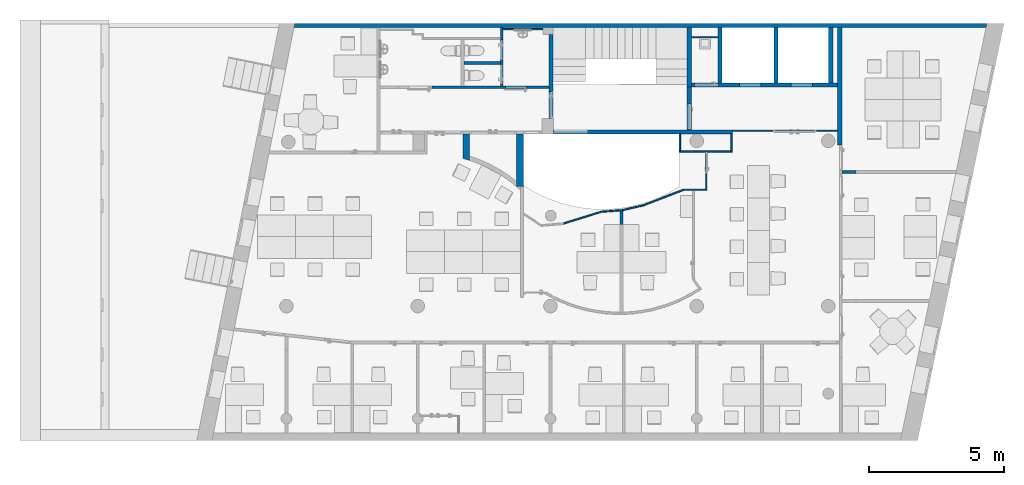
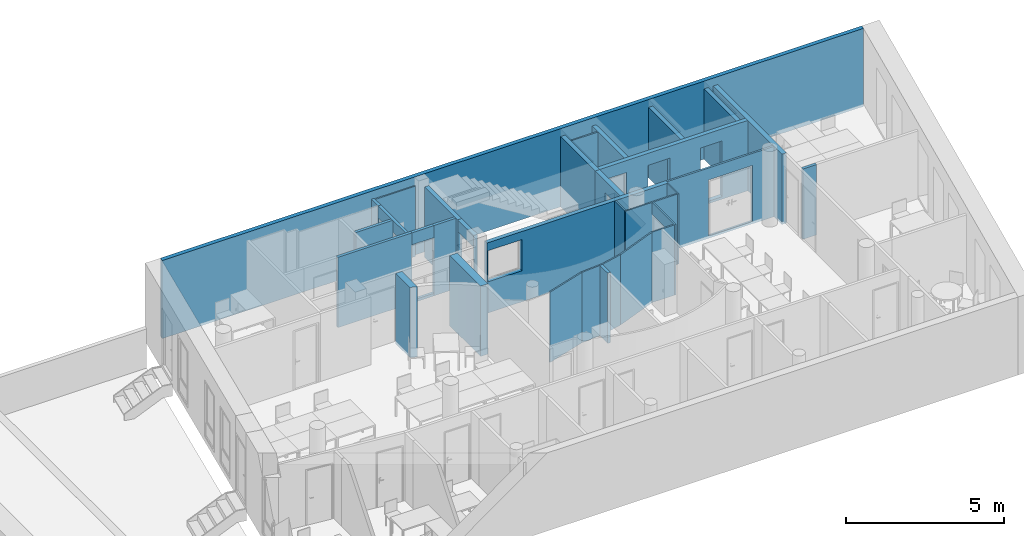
"""IFC4 building model written with IfcOpenShell, lengths in metres."""

import ifcopenshell
import ifcopenshell.guid

model = None  # the IFC model being written
_history = None  # IfcOwnerHistory: only IFC2X3 demands one
_inside = {}  # id of a spatial element -> (the spatial element, [elements in it])
_under = {}  # id of a project, library or spatial element -> (it, [spatial elements below it])
_declared = {}  # id of a project -> (the project, [libraries it declares])
_typed = {}  # id of a type object -> (the type object, [elements of that type])
_made_of = {}  # id of a material, layer set ... -> (it, [elements and type objects made of it])


def new_model(schema):
    """Start an empty IFC model of exactly this schema.

    Asked for "IFC4X3", IfcOpenShell would pick the latest addendum, in which some entities
    have other attributes; the version numbers below select the first issue.
    IFC2X3 requires an IfcOwnerHistory on every rooted entity: one is made here for all.
    """
    global model, _history
    if schema == "IFC4X3":
        model = ifcopenshell.file(schema_version=(4, 3, 0, 0))
    else:
        model = ifcopenshell.file(schema=schema)
    _inside.clear()
    _under.clear()
    _declared.clear()
    _typed.clear()
    _made_of.clear()
    _history = None
    if model.schema == "IFC2X3":
        org = make("IfcOrganization", Name="unknown")
        user = make(
            "IfcPersonAndOrganization",
            ThePerson=make("IfcPerson", FamilyName="unknown"),
            TheOrganization=org,
        )
        app = make(
            "IfcApplication",
            ApplicationDeveloper=org,
            Version="unknown",
            ApplicationFullName="unknown",
            ApplicationIdentifier="unknown",
        )
        _history = make(
            "IfcOwnerHistory",
            OwningUser=user,
            OwningApplication=app,
            ChangeAction="ADDED",
            CreationDate=0,
        )
    return model


def make(cls, **values):
    """One entity of the class cls with the attributes given. An attribute that is None is left unset."""
    return model.create_entity(
        cls, **{name: value for name, value in values.items() if value is not None}
    )


def entity(cls, *values):
    """Any entity or typed value of the class cls, its attributes in the order of the schema. None: left unset."""
    e = model.create_entity(cls)
    for i, value in enumerate(values):
        if value is not None:
            e[i] = value
    return e


def rooted(cls, **values):
    """An entity with a GlobalId (a new one), such as an element, a storey or a relation."""
    return make(cls, GlobalId=ifcopenshell.guid.new(), OwnerHistory=_history, **values)


def si_unit(unit_type, name, prefix=None):
    """IfcSIUnit, for example si_unit("LENGTHUNIT", "METRE", prefix="MILLI")."""
    return make("IfcSIUnit", UnitType=unit_type, Prefix=prefix, Name=name)


def converted_unit(unit_type, name, factor, base, dimensions=None, offset=None):
    """IfcConversionBasedUnit, such as the inch: factor (a typed value) times the base unit."""
    return make(
        "IfcConversionBasedUnit"
        if offset is None
        else "IfcConversionBasedUnitWithOffset",
        ConversionOffset=offset,
        Dimensions=None
        if dimensions is None
        else entity("IfcDimensionalExponents", *dimensions),
        UnitType=unit_type,
        Name=name,
        ConversionFactor=make(
            "IfcMeasureWithUnit", ValueComponent=factor, UnitComponent=base
        ),
    )


def derived_unit(unit_type, elements):
    """IfcDerivedUnit: a product of units, each with its exponent."""
    return make(
        "IfcDerivedUnit",
        Elements=[
            make("IfcDerivedUnitElement", Unit=unit, Exponent=power)
            for unit, power in elements
        ],
        UnitType=unit_type,
    )


def assignment(units):
    """IfcUnitAssignment: the units of a project."""
    return None if units is None else make("IfcUnitAssignment", Units=units)


def point(xyz):
    """IfcCartesianPoint."""
    return None if xyz is None else make("IfcCartesianPoint", Coordinates=xyz)


def direction(xyz):
    """IfcDirection."""
    return None if xyz is None else make("IfcDirection", DirectionRatios=xyz)


def frame(location, z_axis=None, x_axis=None):
    """IfcAxis2Placement3D, a coordinate frame: its origin and axes. An axis left out is left unset."""
    return make(
        "IfcAxis2Placement3D",
        Location=point(location),
        Axis=direction(z_axis),
        RefDirection=direction(x_axis),
    )


def frame_2d(location, x_axis=None):
    """IfcAxis2Placement2D, a coordinate frame in the plane: its origin and x axis."""
    return make(
        "IfcAxis2Placement2D", Location=point(location), RefDirection=direction(x_axis)
    )


def origin():
    """The frame at (0, 0, 0) with its axes left unset."""
    return frame((0.0, 0.0, 0.0))


def origin_with_axes():
    """The frame at (0, 0, 0) with the z axis (0, 0, 1) and the x axis (1, 0, 0) written out."""
    return frame((0.0, 0.0, 0.0), z_axis=(0.0, 0.0, 1.0), x_axis=(1.0, 0.0, 0.0))


def place(relative_to, where):
    """IfcLocalPlacement: puts the frame where relative to a parent placement (None: the world)."""
    return make(
        "IfcLocalPlacement", PlacementRelTo=relative_to, RelativePlacement=where
    )


def context(
    kind, dimensions, precision=None, world=None, true_north=None, identifier=None
):
    """IfcGeometricRepresentationContext, for example the 3D "Model" context."""
    return make(
        "IfcGeometricRepresentationContext",
        ContextIdentifier=identifier,
        ContextType=kind,
        CoordinateSpaceDimension=dimensions,
        Precision=precision,
        WorldCoordinateSystem=world,
        TrueNorth=true_north,
    )


def subcontext(parent, identifier, kind, view, scale=None):
    """IfcGeometricRepresentationSubContext, for example "Body" below "Model"."""
    return make(
        "IfcGeometricRepresentationSubContext",
        ContextIdentifier=identifier,
        ContextType=kind,
        ParentContext=parent,
        TargetScale=scale,
        TargetView=view,
    )


def project(units=None, contexts=None):
    """IfcProject with its units and contexts."""
    return rooted(
        "IfcProject",
        Name="project",
        RepresentationContexts=contexts,
        UnitsInContext=assignment(units),
    )


def spatial(cls, under=None, at=None, **own):
    """A site, building, storey or space (cls), placed at a placement, below another one or the project."""
    s = rooted(cls, ObjectPlacement=at, **own)
    if under is not None:
        _under.setdefault(under.id(), (under, []))[1].append(s)
    return s


def polyline(points):
    """IfcPolyline through the points."""
    return make("IfcPolyline", Points=[point(p) for p in points])


def profile(cls, at=None, kind="AREA", **sizes):
    """A parametric profile (cls). Its sizes go by their IFC names, for example OverallWidth=200.0."""
    return make(cls, ProfileType=kind, Position=at, **sizes)


def rectangle(**sizes):
    """IfcRectangleProfileDef."""
    return profile("IfcRectangleProfileDef", **sizes)


def outline(outer, holes=None, kind="AREA"):
    """IfcArbitraryClosedProfileDef: a profile drawn as a closed curve; with holes, ...WithVoids."""
    if holes is None:
        return make("IfcArbitraryClosedProfileDef", ProfileType=kind, OuterCurve=outer)
    return make(
        "IfcArbitraryProfileDefWithVoids",
        ProfileType=kind,
        OuterCurve=outer,
        InnerCurves=holes,
    )


def extrude(swept, where, along, depth):
    """IfcExtrudedAreaSolid: the profile swept, set in the frame where, extruded along a direction by depth."""
    return make(
        "IfcExtrudedAreaSolid",
        SweptArea=swept,
        Position=where,
        ExtrudedDirection=direction(along),
        Depth=depth,
    )


def shape(context_of_items, identifier, shape_type, items):
    """IfcShapeRepresentation: the items that make up one representation, for example the "Body"."""
    return make(
        "IfcShapeRepresentation",
        ContextOfItems=context_of_items,
        RepresentationIdentifier=identifier,
        RepresentationType=shape_type,
        Items=items,
    )


def material(Name=None, Category=None):
    """IfcMaterial."""
    return make("IfcMaterial", Name=Name, Category=Category)


def layer(
    of_material, thickness, ventilated=None, Name=None, Category=None, Priority=None
):
    """IfcMaterialLayer: one layer of a wall or slab, of a material (None: an air gap)."""
    return make(
        "IfcMaterialLayer",
        Material=of_material,
        LayerThickness=thickness,
        IsVentilated=ventilated,
        Name=Name,
        Category=Category,
        Priority=Priority,
    )


def layer_set(layers, Name=None):
    """IfcMaterialLayerSet."""
    return make("IfcMaterialLayerSet", MaterialLayers=layers, LayerSetName=Name)


def layer_usage(for_layer_set, set_direction, sense, offset, extent=None):
    """IfcMaterialLayerSetUsage: how a layer set lies in its element."""
    return make(
        "IfcMaterialLayerSetUsage",
        ForLayerSet=for_layer_set,
        LayerSetDirection=set_direction,
        DirectionSense=sense,
        OffsetFromReferenceLine=offset,
        ReferenceExtent=extent,
    )


def made_of(thing, what):
    """Note that an element or type object is made of a material, layer set ...; save() writes the relation."""
    if what is not None:
        _made_of.setdefault(what.id(), (what, []))[1].append(thing)
    return thing


def element(
    cls,
    number,
    at=None,
    inside=None,
    cuts=None,
    type_object=None,
    material=None,
    context=None,
    identifier="Body",
    shape_type=None,
    held_by="IfcProductDefinitionShape",
    body=None,
    shapes=None,
    **own,
):
    """One element of the class cls, such as IfcWall. Its Tag is "e" and its number.

    at: its placement. inside: the storey or other place that contains it. cuts: it is an
    opening in that element (IfcRelVoidsElement). A single representation is given by context,
    identifier, shape_type and body (its items); several are given by shapes. held_by: the class
    of the entity that holds the representations. save() writes the other relations.
    """
    e = rooted(cls, Tag="e%d" % number, ObjectPlacement=at, **own)
    if body is not None:
        shapes = [shape(context, identifier, shape_type, body)]
    if shapes is not None:
        e.Representation = make(held_by, Representations=shapes)
    if inside is not None:
        _inside.setdefault(inside.id(), (inside, []))[1].append(e)
    if cuts is not None:
        rooted(
            "IfcRelVoidsElement", RelatingBuildingElement=cuts, RelatedOpeningElement=e
        )
    if type_object is not None:
        _typed.setdefault(type_object.id(), (type_object, []))[1].append(e)
    return made_of(e, material)


def aggregate(whole, parts):
    """IfcRelAggregates: a whole, such as a stair, and the parts it consists of."""
    return rooted("IfcRelAggregates", RelatingObject=whole, RelatedObjects=parts)


def save(model, path):
    """Write the relations noted so far, then the file.

    IfcRelAggregates (storeys below a building ...), IfcRelContainedInSpatialStructure (elements
    in a storey), IfcRelDefinesByType, IfcRelAssociatesMaterial and IfcRelDeclares: one each for
    every whole, place, type object, material and project.
    """
    for whole, parts in _under.values():
        aggregate(whole, parts)
    for where, things in _inside.values():
        rooted(
            "IfcRelContainedInSpatialStructure",
            RelatedElements=things,
            RelatingStructure=where,
        )
    for kind, things in _typed.values():
        rooted("IfcRelDefinesByType", RelatedObjects=things, RelatingType=kind)
    for what, things in _made_of.values():
        rooted("IfcRelAssociatesMaterial", RelatedObjects=things, RelatingMaterial=what)
    for by, libraries in _declared.values():
        rooted("IfcRelDeclares", RelatingContext=by, RelatedDefinitions=libraries)
    model.write(path)


model = new_model("IFC4")

# Units and contexts
model_context = context("Model", 3, precision=1e-05, world=origin())
body_context = subcontext(model_context, "Body", "Model", "MODEL_VIEW")
ifc_project = project(units=[si_unit("LENGTHUNIT", "METRE"), si_unit("AREAUNIT", "SQUARE_METRE"), si_unit("VOLUMEUNIT", "CUBIC_METRE"), si_unit("MASSUNIT", "GRAM", prefix="KILO"), converted_unit("PLANEANGLEUNIT", "DEGREE", entity("IfcPlaneAngleMeasure", 0.0174532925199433), si_unit("PLANEANGLEUNIT", "RADIAN"), dimensions=[0, 0, 0, 0, 0, 0, 0]), derived_unit("THERMALTRANSMITTANCEUNIT", [(si_unit("POWERUNIT", "WATT"), 1), (si_unit("THERMODYNAMICTEMPERATUREUNIT", "KELVIN"), -1), (si_unit("LENGTHUNIT", "METRE"), -2)]), derived_unit("VOLUMETRICFLOWRATEUNIT", [(si_unit("LENGTHUNIT", "METRE"), 3), (converted_unit("TIMEUNIT", "hour", entity("IfcTimeMeasure", 3600.0), si_unit("TIMEUNIT", "SECOND"), dimensions=[0, 0, 1, 0, 0, 0, 0]), -1), (si_unit("LENGTHUNIT", "METRE"), -1)])], contexts=[model_context])

# Building, storeys
building_placement = place(None, origin())
building = spatial("IfcBuilding", under=ifc_project, at=building_placement, Name="HABITATGE PLURIFAMILIAR", CompositionType="ELEMENT")
storey_1_placement = place(building_placement, frame((0.0, 0.0, 6.25)))
storey_1 = spatial("IfcBuildingStorey", under=building, at=storey_1_placement, Name="PLANTA PRIMERA", CompositionType="ELEMENT", Elevation=6.25)
storey_2_placement = place(storey_1_placement, frame((0.0, 0.0, 3.35)))
storey_2 = spatial("IfcBuildingStorey", under=storey_1, at=storey_2_placement, Name="NOU", CompositionType="PARTIAL")

# Walls
ifc_material_1 = material()
ifc_layer_1 = layer(ifc_material_1, 0.05)
ifc_layer_set_1 = layer_set([ifc_layer_1])
ifc_layer_usage_1 = layer_usage(ifc_layer_set_1, "AXIS2", "POSITIVE", 0.0)
wall_1_placement = place(storey_2_placement, frame((408.9874736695, 28.0019794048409, -3.45)))
element("IfcWall", 1, at=wall_1_placement, inside=storey_2, material=ifc_layer_usage_1, Name="Envans P1", context=body_context, shape_type="SweptSolid", body=[
    extrude(rectangle(XDim=1.46951110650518, YDim=0.05, at=frame_2d((0.734755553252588, 0.025), x_axis=(1.0, 0.0))), origin_with_axes(), (0.0, 0.0, 1.0), 2.71),
])
ifc_material_2 = material()
ifc_layer_2 = layer(ifc_material_2, 0.1)
ifc_layer_set_2 = layer_set([ifc_layer_2])
ifc_layer_usage_2 = layer_usage(ifc_layer_set_2, "AXIS2", "POSITIVE", 0.0)
wall_2_placement = place(storey_2_placement, frame((407.539729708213, 26.729639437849, -3.45)))
element("IfcWall", 2, at=wall_2_placement, inside=storey_2, material=ifc_layer_usage_2, Name="Envans P1", context=body_context, shape_type="SweptSolid", body=[
    extrude(rectangle(XDim=1.34774396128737, YDim=0.1, at=frame_2d((0.673871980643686, 0.05), x_axis=(1.0, 0.0))), origin_with_axes(), (0.0, 0.0, 1.0), 2.71),
])
ifc_material_3 = material()
ifc_layer_3 = layer(ifc_material_3, 0.15)
ifc_layer_set_3 = layer_set([ifc_layer_3])
ifc_layer_usage_3 = layer_usage(ifc_layer_set_3, "AXIS2", "POSITIVE", 0.0)
wall_3_placement = place(storey_2_placement, frame((421.156984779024, 26.0394598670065, -3.45), z_axis=(0.0, 0.0, 1.0), x_axis=(0.0, 1.0, 0.0)))
element("IfcWall", 3, at=wall_3_placement, inside=storey_2, material=ifc_layer_usage_3, Name="Envans P1", context=body_context, shape_type="SweptSolid", body=[
    extrude(rectangle(XDim=2.03878803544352, YDim=0.15, at=frame_2d((1.01939401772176, 0.075), x_axis=(1.0, 0.0))), origin_with_axes(), (0.0, 0.0, 1.0), 2.71),
])
ifc_material_4 = material()
ifc_layer_4 = layer(ifc_material_4, 0.05)
ifc_layer_set_4 = layer_set([ifc_layer_4])
ifc_layer_usage_4 = layer_usage(ifc_layer_set_4, "AXIS2", "POSITIVE", 0.0)
wall_4_placement = place(storey_2_placement, frame((415.946984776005, 27.6994598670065, -3.45)))
element("IfcWall", 4, at=wall_4_placement, inside=storey_2, material=ifc_layer_usage_4, Name="Envans P1", context=body_context, shape_type="SweptSolid", body=[
    extrude(rectangle(XDim=0.98, YDim=0.05, at=frame_2d((0.49, 0.025), x_axis=(1.0, 0.0))), origin_with_axes(), (0.0, 0.0, 1.0), 2.71),
])
ifc_material_5 = material()
ifc_layer_5 = layer(ifc_material_5, 0.15)
ifc_layer_set_5 = layer_set([ifc_layer_5])
ifc_layer_usage_5 = layer_usage(ifc_layer_set_5, "AXIS2", "POSITIVE", 0.0)
wall_5_placement = place(storey_2_placement, frame((419.136984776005, 26.0394598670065, -3.45), z_axis=(0.0, 0.0, 1.0), x_axis=(0.0, 1.0, 0.0)))
element("IfcWall", 5, at=wall_5_placement, inside=storey_2, material=ifc_layer_usage_5, Name="Envans P1", context=body_context, shape_type="SweptSolid", body=[
    extrude(rectangle(XDim=2.03878803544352, YDim=0.15, at=frame_2d((1.01939401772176, 0.075), x_axis=(1.0, 0.0))), origin_with_axes(), (0.0, 0.0, 1.0), 2.71),
])
ifc_material_6 = material()
ifc_layer_6 = layer(ifc_material_6, 0.15)
ifc_layer_set_6 = layer_set([ifc_layer_6])
ifc_layer_usage_6 = layer_usage(ifc_layer_set_6, "AXIS2", "POSITIVE", 0.0)
wall_6_placement = place(storey_2_placement, frame((417.076984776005, 26.0394598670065, -3.45), z_axis=(0.0, 0.0, 1.0), x_axis=(0.0, 1.0, 0.0)))
element("IfcWall", 6, at=wall_6_placement, inside=storey_2, material=ifc_layer_usage_6, Name="Envans P1", context=body_context, shape_type="SweptSolid", body=[
    extrude(rectangle(XDim=2.03878803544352, YDim=0.15, at=frame_2d((1.01939401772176, 0.075), x_axis=(1.0, 0.0))), origin_with_axes(), (0.0, 0.0, 1.0), 2.71),
])
ifc_material_7 = material()
ifc_layer_7 = layer(ifc_material_7, 0.05)
ifc_layer_set_7 = layer_set([ifc_layer_7])
ifc_layer_usage_7 = layer_usage(ifc_layer_set_7, "AXIS2", "POSITIVE", 0.0)
wall_7_placement = place(storey_2_placement, frame((415.486984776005, 24.1594598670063, -3.45), z_axis=(0.0, 0.0, 1.0), x_axis=(0.0, -1.0, 0.0)))
element("IfcWall", 7, at=wall_7_placement, inside=storey_2, material=ifc_layer_usage_7, Name="Envans P1", context=body_context, shape_type="SweptSolid", body=[
    extrude(rectangle(XDim=0.619999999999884, YDim=0.05, at=frame_2d((0.309999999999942, 0.025), x_axis=(1.0, 0.0))), origin_with_axes(), (0.0, 0.0, 1.0), 2.71),
])
ifc_material_8 = material()
ifc_layer_8 = layer(ifc_material_8, 0.05)
ifc_layer_set_8 = layer_set([ifc_layer_8])
ifc_layer_usage_8 = layer_usage(ifc_layer_set_8, "AXIS2", "POSITIVE", 0.0)
wall_8_placement = place(storey_2_placement, frame((415.486984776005, 23.4894598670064, -3.45)))
element("IfcWall", 8, at=wall_8_placement, inside=storey_2, material=ifc_layer_usage_8, Name="Envans P1", context=body_context, shape_type="SweptSolid", body=[
    extrude(rectangle(XDim=1.90999999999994, YDim=0.05, at=frame_2d((0.954999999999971, 0.025), x_axis=(1.0, 0.0))), origin_with_axes(), (0.0, 0.0, 1.0), 2.71),
])
ifc_material_9 = material()
ifc_layer_9 = layer(ifc_material_9, 0.05)
ifc_layer_set_9 = layer_set([ifc_layer_9])
ifc_layer_usage_9 = layer_usage(ifc_layer_set_9, "AXIS2", "POSITIVE", 0.0)
wall_9_placement = place(storey_2_placement, frame((417.446984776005, 23.4894598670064, -3.45), z_axis=(0.0, 0.0, 1.0), x_axis=(0.0, 1.0, 0.0)))
element("IfcWall", 9, at=wall_9_placement, inside=storey_2, material=ifc_layer_usage_9, Name="Envans P1", context=body_context, shape_type="SweptSolid", body=[
    extrude(rectangle(XDim=0.669999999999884, YDim=0.05, at=frame_2d((0.334999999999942, 0.025), x_axis=(1.0, 0.0))), origin_with_axes(), (0.0, 0.0, 1.0), 2.71),
])

# Wall, opening
ifc_material_10 = material()
ifc_layer_10 = layer(ifc_material_10, 0.07)
ifc_layer_set_10 = layer_set([ifc_layer_10])
ifc_layer_usage_10 = layer_usage(ifc_layer_set_10, "AXIS2", "POSITIVE", 0.0)
wall_10_placement = place(storey_2_placement, frame((421.336984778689, 24.3094598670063, -3.45), z_axis=(0.0, 0.0, 1.0), x_axis=(-1.0, 5.98536358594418e-14, 0.0)))
wall_10 = element("IfcWall", 10, at=wall_10_placement, inside=storey_2, material=ifc_layer_usage_10, Name="Mampara P1", context=body_context, shape_type="SweptSolid", body=[
    extrude(rectangle(XDim=3.8900000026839, YDim=0.07, at=frame_2d((1.94500000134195, 0.035), x_axis=(1.0, 0.0))), origin_with_axes(), (0.0, 0.0, 1.0), 2.71),
])
opening_1_placement = place(wall_10_placement, frame((2.39000000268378, 0.0700000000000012, 0.1), z_axis=(5.84675165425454e-14, -1.0, 0.0), x_axis=(0.0, 0.0, 1.0)))
element("IfcOpeningElement", 11, at=opening_1_placement, cuts=wall_10, Name="Vano de puerta P1", ObjectType="Opening", context=body_context, shape_type="SweptSolid", body=[
    extrude(outline(polyline([(2.15, 1.60127470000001), (2.15, 0.0), (0.0, 0.0), (0.0, 1.60127470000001), (2.15, 1.60127470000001)])), origin_with_axes(), (0.0, 0.0, 1.0), 0.07),
])

# Walls
ifc_material_11 = material()
ifc_layer_11 = layer(ifc_material_11, 0.05)
ifc_layer_set_11 = layer_set([ifc_layer_11])
ifc_layer_usage_11 = layer_usage(ifc_layer_set_11, "AXIS2", "POSITIVE", 0.0)
wall_11_placement = place(storey_2_placement, frame((415.646984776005, 22.0694598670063, -3.45)))
element("IfcWall", 12, at=wall_11_placement, inside=storey_2, material=ifc_layer_usage_11, Name="Mampara P1", context=body_context, shape_type="SweptSolid", body=[
    extrude(outline(polyline([(0.00933347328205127, 0.0), (0.829333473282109, 0.0), (0.829333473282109, 0.05), (0.0, 0.05), (0.00933347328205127, 0.0)])), frame((-0.00933347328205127, 0.0, 0.0), z_axis=(0.0, 0.0, 1.0), x_axis=(1.0, 0.0, 0.0)), (0.0, 0.0, 1.0), 2.71),
])
ifc_material_12 = material()
ifc_layer_12 = layer(ifc_material_12, 0.0500000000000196)
ifc_layer_set_12 = layer_set([ifc_layer_12])
ifc_layer_usage_12 = layer_usage(ifc_layer_set_12, "AXIS2", "POSITIVE", 0.0)
wall_12_placement = place(storey_2_placement, frame((414.173422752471, 21.4994598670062, -3.45), z_axis=(0.0, 0.0, 1.0), x_axis=(0.932655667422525, 0.360767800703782, 0.0)))
element("IfcWall", 13, at=wall_12_placement, inside=storey_2, material=ifc_layer_usage_12, Name="Mampara P1", context=body_context, shape_type="SweptSolid", body=[
    extrude(outline(polyline([(0.0137911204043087, -0.00533465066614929), (1.59375473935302, -0.00533465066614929), (1.60308821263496, 0.0446653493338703), (0.017277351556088, 0.0446653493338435), (0.0173994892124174, 0.0446482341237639), (0.0137911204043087, -0.00533465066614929)])), frame((-0.0137911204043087, 0.00533465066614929, 0.0), z_axis=(0.0, 0.0, 1.0), x_axis=(1.0, 0.0, 0.0)), (0.0, 0.0, 1.0), 2.71),
])
ifc_material_13 = material()
ifc_layer_13 = layer(ifc_material_13, 0.0500000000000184)
ifc_layer_set_13 = layer_set([ifc_layer_13])
ifc_layer_usage_13 = layer_usage(ifc_layer_set_13, "AXIS2", "POSITIVE", 0.0)
wall_13_placement = place(storey_2_placement, frame((413.406608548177, 21.3200229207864, -3.45), z_axis=(0.0, 0.0, 1.0), x_axis=(0.97369668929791, 0.227848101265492, 0.0)))
element("IfcWall", 14, at=wall_13_placement, inside=storey_2, material=ifc_layer_usage_13, Name="Mampara P1", context=body_context, shape_type="SweptSolid", body=[
    extrude(outline(polyline([(0.00745048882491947, -0.0017434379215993), (0.794979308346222, -0.00174343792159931), (0.791616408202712, 0.0482565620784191), (0.011292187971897, 0.0482565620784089), (0.0150887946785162, 0.04766968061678), (0.00745048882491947, -0.0017434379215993)])), frame((-0.00745048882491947, 0.0017434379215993, 0.0), z_axis=(0.0, 0.0, 1.0), x_axis=(1.0, 0.0, 0.0)), (0.0, 0.0, 1.0), 2.71),
])
ifc_material_14 = material()
ifc_layer_14 = layer(ifc_material_14, 0.0499999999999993)
ifc_layer_set_14 = layer_set([ifc_layer_14])
ifc_layer_usage_14 = layer_usage(ifc_layer_set_14, "AXIS2", "POSITIVE", 0.0)
wall_14_placement = place(storey_2_placement, frame((412.616484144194, 21.2594598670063, -3.45), z_axis=(0.0, 0.0, 1.0), x_axis=(0.997075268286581, 0.0764258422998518, 0.0)))
element("IfcWall", 15, at=wall_14_placement, inside=storey_2, material=ifc_layer_usage_14, Name="Mampara P1", context=body_context, shape_type="SweptSolid", body=[
    extrude(outline(polyline([(0.00943506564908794, -0.000723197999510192), (0.801877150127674, -0.000723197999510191), (0.801877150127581, 0.0492768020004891), (0.00377706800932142, 0.0492768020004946), (0.00943506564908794, -0.000723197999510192)])), frame((-0.00943506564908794, 0.000723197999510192, 0.0), z_axis=(0.0, 0.0, 1.0), x_axis=(1.0, 0.0, 0.0)), (0.0, 0.0, 1.0), 2.71),
])
ifc_material_15 = material()
ifc_layer_15 = layer(ifc_material_15, 0.0499999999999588)
ifc_layer_set_15 = layer_set([ifc_layer_15])
ifc_layer_usage_15 = layer_usage(ifc_layer_set_15, "AXIS2", "POSITIVE", 0.0)
wall_15_placement = place(storey_2_placement, frame((411.206506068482, 20.8204247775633, -3.45), z_axis=(0.0, 0.0, 1.0), x_axis=(0.954784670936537, 0.29729822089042, 0.0)))
element("IfcWall", 16, at=wall_15_placement, inside=storey_2, material=ifc_layer_usage_15, Name="Mampara P1", context=body_context, shape_type="SweptSolid", body=[
    extrude(outline(polyline([(0.0121983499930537, -0.00379828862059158), (1.48894815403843, -0.00379828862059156), (1.4946061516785, 0.0462017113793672), (0.0143861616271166, 0.0462017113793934), (0.0227841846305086, 0.0443555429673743), (0.0121983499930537, -0.00379828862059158)])), frame((-0.0121983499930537, 0.00379828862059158, 0.0), z_axis=(0.0, 0.0, 1.0), x_axis=(1.0, 0.0, 0.0)), (0.0, 0.0, 1.0), 2.71),
])

# Wall, opening
ifc_material_16 = material()
ifc_layer_16 = layer(ifc_material_16, 0.05)
ifc_layer_set_16 = layer_set([ifc_layer_16])
ifc_layer_usage_16 = layer_usage(ifc_layer_set_16, "AXIS2", "POSITIVE", 0.0)
wall_16_placement = place(storey_2_placement, frame((416.516984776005, 22.0694598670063, -3.45), z_axis=(0.0, 0.0, 1.0), x_axis=(0.0, 1.0, 0.0)))
wall_16 = element("IfcWall", 17, at=wall_16_placement, inside=storey_2, material=ifc_layer_usage_16, Name="Mampara P1", context=body_context, shape_type="SweptSolid", body=[
    extrude(rectangle(XDim=1.42000000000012, YDim=0.05, at=frame_2d((0.710000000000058, 0.025), x_axis=(1.0, 0.0))), origin_with_axes(), (0.0, 0.0, 1.0), 2.71),
])
opening_2_placement = place(wall_16_placement, frame((1.42000000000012, 0.05, 0.1), z_axis=(0.0, -1.0, 0.0), x_axis=(0.0, 0.0, 1.0)))
element("IfcOpeningElement", 18, at=opening_2_placement, cuts=wall_16, Name="Vano de puerta P1", ObjectType="Opening", context=body_context, shape_type="SweptSolid", body=[
    extrude(outline(polyline([(2.15, 0.790166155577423), (2.15, 0.0), (0.0, 0.0), (0.0, 0.790166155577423), (2.15, 0.790166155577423)])), origin_with_axes(), (0.0, 0.0, 1.0), 0.05),
])

# Wall
ifc_material_17 = material()
ifc_layer_17 = layer(ifc_material_17, 0.17)
ifc_layer_set_17 = layer_set([ifc_layer_17])
ifc_layer_usage_17 = layer_usage(ifc_layer_set_17, "AXIS2", "POSITIVE", 0.0)
wall_17_placement = place(storey_2_placement, frame((415.776984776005, 28.07824790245, -3.45), z_axis=(0.0, 0.0, 1.0), x_axis=(0.0, -1.0, 0.0)))
element("IfcWall", 19, at=wall_17_placement, inside=storey_2, material=ifc_layer_usage_17, Name="Envans P1", context=body_context, shape_type="SweptSolid", body=[
    extrude(rectangle(XDim=2.18878803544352, YDim=0.17, at=frame_2d((1.09439401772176, 0.085), x_axis=(1.0, 0.0))), origin_with_axes(), (0.0, 0.0, 1.0), 2.71),
])

# Wall, openings
ifc_material_18 = material()
ifc_layer_18 = layer(ifc_material_18, 0.15)
ifc_layer_set_18 = layer_set([ifc_layer_18])
ifc_layer_usage_18 = layer_usage(ifc_layer_set_18, "AXIS2", "POSITIVE", 0.0)
wall_18_placement = place(storey_2_placement, frame((415.946984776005, 25.8894598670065, -3.45)))
wall_18 = element("IfcWall", 20, at=wall_18_placement, inside=storey_2, material=ifc_layer_usage_18, Name="Envans P1", context=body_context, shape_type="SweptSolid", body=[
    extrude(rectangle(XDim=5.39000000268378, YDim=0.15, at=frame_2d((2.69500000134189, 0.075), x_axis=(1.0, 0.0))), origin_with_axes(), (0.0, 0.0, 1.0), 2.71),
])
opening_3_placement = place(wall_18_placement, frame((3.66000000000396, 0.0, 0.1), z_axis=(0.0, 1.0, 0.0), x_axis=(0.0, 0.0, 1.0)))
element("IfcOpeningElement", 21, at=opening_3_placement, cuts=wall_18, Name="Vano de puerta P1", ObjectType="Opening", context=body_context, shape_type="SweptSolid", body=[
    extrude(outline(polyline([(2.15, 0.8), (2.15, 0.0), (0.0, 0.0), (0.0, 0.8), (2.15, 0.8)])), origin_with_axes(), (0.0, 0.0, 1.0), 0.15),
])
opening_4_placement = place(wall_18_placement, frame((0.13, 0.0, 0.1), z_axis=(0.0, 1.0, 0.0), x_axis=(0.0, 0.0, 1.0)))
element("IfcOpeningElement", 22, at=opening_4_placement, cuts=wall_18, Name="Vano de puerta P1", ObjectType="Opening", context=body_context, shape_type="SweptSolid", body=[
    extrude(outline(polyline([(2.15, 0.849999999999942), (2.15, 0.0), (0.0, 0.0), (0.0, 0.849999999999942), (2.15, 0.849999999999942)])), origin_with_axes(), (0.0, 0.0, 1.0), 0.15),
])
opening_5_placement = place(wall_18_placement, frame((1.76000000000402, 0.0, 0.1), z_axis=(0.0, 1.0, 0.0), x_axis=(0.0, 0.0, 1.0)))
element("IfcOpeningElement", 23, at=opening_5_placement, cuts=wall_18, Name="Vano de puerta P1", ObjectType="Opening", context=body_context, shape_type="SweptSolid", body=[
    extrude(outline(polyline([(2.15, 0.8), (2.15, 0.0), (0.0, 0.0), (0.0, 0.8), (2.15, 0.8)])), origin_with_axes(), (0.0, 0.0, 1.0), 0.15),
])

# Walls
ifc_material_19 = material()
ifc_layer_19 = layer(ifc_material_19, 0.17)
ifc_layer_set_19 = layer_set([ifc_layer_19])
ifc_layer_usage_19 = layer_usage(ifc_layer_set_19, "AXIS2", "POSITIVE", 0.0)
wall_19_placement = place(storey_2_placement, frame((421.506984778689, 23.7407426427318, -3.45), z_axis=(0.0, 0.0, 1.0), x_axis=(0.0, 1.0, 0.0)))
element("IfcWall", 24, at=wall_19_placement, inside=storey_2, material=ifc_layer_usage_19, Name="Envans P1", context=body_context, shape_type="SweptSolid", body=[
    extrude(rectangle(XDim=4.33750525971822, YDim=0.17, at=frame_2d((2.16875262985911, 0.085), x_axis=(1.0, 0.0))), origin_with_axes(), (0.0, 0.0, 1.0), 2.71),
])
ifc_material_20 = material()
ifc_layer_20 = layer(ifc_material_20, 0.1)
ifc_layer_set_20 = layer_set([ifc_layer_20])
ifc_layer_usage_20 = layer_usage(ifc_layer_set_20, "AXIS2", "POSITIVE", 0.0)
wall_20_placement = place(storey_2_placement, frame((408.9874736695, 27.6494598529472, -3.45), z_axis=(0.0, 0.0, 1.0), x_axis=(0.0, 1.0, 0.0)))
element("IfcWall", 25, at=wall_20_placement, inside=storey_2, material=ifc_layer_usage_20, Name="Envans P1", context=body_context, shape_type="SweptSolid", body=[
    extrude(rectangle(XDim=0.428788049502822, YDim=0.1, at=frame_2d((0.214394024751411, 0.05), x_axis=(1.0, 0.0))), origin_with_axes(), (0.0, 0.0, 1.0), 2.71),
])
ifc_material_21 = material()
ifc_layer_21 = layer(ifc_material_21, 0.1)
ifc_layer_set_21 = layer_set([ifc_layer_21])
ifc_layer_usage_21 = layer_usage(ifc_layer_set_21, "AXIS2", "POSITIVE", 0.0)
wall_21_placement = place(storey_2_placement, frame((406.366210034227, 25.8294598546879, -3.45)))
element("IfcWall", 26, at=wall_21_placement, inside=storey_2, material=ifc_layer_usage_21, Name="Envans P1", context=body_context, shape_type="SweptSolid", body=[
    extrude(rectangle(XDim=2.69951233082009, YDim=0.1, at=frame_2d((1.34975616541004, 0.05), x_axis=(1.0, 0.0))), origin_with_axes(), (0.0, 0.0, 1.0), 2.71),
])
ifc_material_22 = material()
ifc_layer_22 = layer(ifc_material_22, 0.1)
ifc_layer_set_22 = layer_set([ifc_layer_22])
ifc_layer_usage_22 = layer_usage(ifc_layer_set_22, "AXIS2", "POSITIVE", 0.0)
wall_22_placement = place(storey_2_placement, frame((409.865722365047, 25.8294598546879, -3.45)))
element("IfcWall", 27, at=wall_22_placement, inside=storey_2, material=ifc_layer_usage_22, Name="Envans P1", context=body_context, shape_type="SweptSolid", body=[
    extrude(rectangle(XDim=0.811262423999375, YDim=0.1, at=frame_2d((0.405631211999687, 0.05), x_axis=(1.0, 0.0))), origin_with_axes(), (0.0, 0.0, 1.0), 2.71),
])
ifc_material_23 = material()
ifc_layer_23 = layer(ifc_material_23, 0.15)
ifc_layer_set_23 = layer_set([ifc_layer_23])
ifc_layer_usage_23 = layer_usage(ifc_layer_set_23, "AXIS2", "POSITIVE", 0.0)
wall_23_placement = place(storey_2_placement, frame((410.826984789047, 25.7294598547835, -3.45), z_axis=(0.0, 0.0, 1.0), x_axis=(0.0, 1.0, 0.0)))
element("IfcWall", 28, at=wall_23_placement, inside=storey_2, material=ifc_layer_usage_23, Name="Envans P1", context=body_context, shape_type="SweptSolid", body=[
    extrude(rectangle(XDim=2.09000001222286, YDim=0.15, at=frame_2d((1.04500000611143, 0.075), x_axis=(1.0, 0.0))), origin_with_axes(), (0.0, 0.0, 1.0), 2.71),
])

# Wall, opening
ifc_material_24 = material()
ifc_layer_24 = layer(ifc_material_24, 0.15)
ifc_layer_set_24 = layer_set([ifc_layer_24])
ifc_layer_usage_24 = layer_usage(ifc_layer_set_24, "AXIS2", "POSITIVE", 0.0)
wall_24_placement = place(storey_2_placement, frame((417.446984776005, 24.3094598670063, -3.45), z_axis=(0.0, 0.0, 1.0), x_axis=(-1.0, 0.0, 0.0)))
wall_24 = element("IfcWall", 29, at=wall_24_placement, inside=storey_2, material=ifc_layer_usage_24, Name="Envans P1", context=body_context, shape_type="SweptSolid", body=[
    extrude(rectangle(XDim=6.60651604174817, YDim=0.15, at=frame_2d((3.30325802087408, 0.075), x_axis=(1.0, 0.0))), origin_with_axes(), (0.0, 0.0, 1.0), 2.71),
])
opening_6_placement = place(wall_24_placement, frame((6.57999999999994, 0.15, 1.2), z_axis=(0.0, -1.0, 0.0), x_axis=(0.0, 0.0, 1.0)))
element("IfcOpeningElement", 30, at=opening_6_placement, cuts=wall_24, Name="Vano de Finestra P1", ObjectType="Opening", context=body_context, shape_type="SweptSolid", body=[
    extrude(outline(polyline([(1.2, 1.24), (1.2, 0.0), (0.0, 0.0), (0.0, 1.24), (1.2, 1.24)])), origin_with_axes(), (0.0, 0.0, 1.0), 0.15),
])

# Walls
ifc_material_25 = material()
ifc_layer_25 = layer(ifc_material_25, 0.23)
ifc_layer_set_25 = layer_set([ifc_layer_25])
ifc_layer_usage_25 = layer_usage(ifc_layer_set_25, "AXIS2", "POSITIVE", 0.0)
wall_25_placement = place(storey_2_placement, frame((407.736984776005, 23.1831386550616, -3.45), z_axis=(0.0, 0.0, 1.0), x_axis=(0.0, 1.0, 0.0)))
element("IfcWall", 31, at=wall_25_placement, inside=storey_2, material=ifc_layer_usage_25, Name="Envans P1", context=body_context, shape_type="SweptSolid", body=[
    extrude(outline(polyline([(0.0, -0.23), (0.976321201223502, -0.23), (0.976321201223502, 0.0), (0.0785689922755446, 0.0), (0.0, -0.23)])), frame((0.0, 0.23, 0.0), z_axis=(0.0, 0.0, 1.0), x_axis=(1.0, 0.0, 0.0)), (0.0, 0.0, 1.0), 2.71),
])
ifc_material_26 = material()
ifc_layer_26 = layer(ifc_material_26, 0.27)
ifc_layer_set_26 = layer_set([ifc_layer_26])
ifc_layer_usage_26 = layer_usage(ifc_layer_set_26, "AXIS2", "POSITIVE", 0.0)
wall_26_placement = place(storey_2_placement, frame((409.746984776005, 22.2096257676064, -3.45), z_axis=(0.0, 0.0, 1.0), x_axis=(0.0, 1.0, 0.0)))
element("IfcWall", 32, at=wall_26_placement, inside=storey_2, material=ifc_layer_usage_26, Name="Envans P1", context=body_context, shape_type="SweptSolid", body=[
    extrude(rectangle(XDim=1.94983408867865, YDim=0.27, at=frame_2d((0.974917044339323, 0.135), x_axis=(1.0, 0.0))), origin_with_axes(), (0.0, 0.0, 1.0), 2.71),
])
ifc_material_27 = material()
ifc_layer_27 = layer(ifc_material_27, 0.15)
ifc_layer_set_27 = layer_set([ifc_layer_27])
ifc_layer_usage_27 = layer_usage(ifc_layer_set_27, "AXIS2", "POSITIVE", 0.0)
wall_27_placement = place(storey_2_placement, frame((426.84641382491, 28.22824790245, -3.45), z_axis=(0.0, 0.0, 1.0), x_axis=(-1.0, 0.0, 0.0)))
element("IfcWall", 33, at=wall_27_placement, inside=storey_2, material=ifc_layer_usage_27, Name="Envans P1", context=body_context, shape_type="SweptSolid", body=[
    extrude(outline(polyline([(-25.5857066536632, -0.15), (-0.0297188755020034, -0.15), (0.0, 0.0), (-25.5546283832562, 0.0), (-25.5857066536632, -0.15)])), frame((25.5857066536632, 0.15, 0.0), z_axis=(0.0, 0.0, 1.0), x_axis=(1.0, 0.0, 0.0)), (0.0, 0.0, 1.0), 3.01),
])

# Wall, openings
ifc_material_28 = material()
ifc_layer_28 = layer(ifc_material_28, 0.1)
ifc_layer_set_28 = layer_set([ifc_layer_28])
ifc_layer_usage_28 = layer_usage(ifc_layer_set_28, "AXIS2", "POSITIVE", 0.0)
wall_28_placement = place(storey_2_placement, frame((408.9874736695, 25.9294598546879, -3.45), z_axis=(0.0, 0.0, 1.0), x_axis=(0.0, 1.0, 0.0)))
wall_28 = element("IfcWall", 34, at=wall_28_placement, inside=storey_2, material=ifc_layer_usage_28, Name="Envans P1", context=body_context, shape_type="SweptSolid", body=[
    extrude(rectangle(XDim=1.71999999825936, YDim=0.1, at=frame_2d((0.859999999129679, 0.05), x_axis=(1.0, 0.0))), origin_with_axes(), (0.0, 0.0, 1.0), 2.71),
])
opening_7_placement = place(wall_28_placement, frame((0.798973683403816, 0.1, 0.1), z_axis=(0.0, -1.0, 0.0), x_axis=(0.0, 0.0, 1.0)))
element("IfcOpeningElement", 35, at=opening_7_placement, cuts=wall_28, Name="Vano de puerta P1", ObjectType="Opening", context=body_context, shape_type="SweptSolid", body=[
    extrude(outline(polyline([(2.15, 0.74), (2.15, 0.0), (0.0, 0.0), (0.0, 0.74), (2.15, 0.74)])), origin_with_axes(), (0.0, 0.0, 1.0), 0.1),
])
opening_8_placement = place(wall_28_placement, frame((1.68897368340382, 0.1, 0.1), z_axis=(0.0, -1.0, 0.0), x_axis=(0.0, 0.0, 1.0)))
element("IfcOpeningElement", 36, at=opening_8_placement, cuts=wall_28, Name="Vano de puerta P1", ObjectType="Opening", context=body_context, shape_type="SweptSolid", body=[
    extrude(outline(polyline([(2.15, 0.74), (2.15, 0.0), (0.0, 0.0), (0.0, 0.74), (2.15, 0.74)])), origin_with_axes(), (0.0, 0.0, 1.0), 0.1),
])

# Wall, opening
ifc_material_29 = material()
ifc_layer_29 = layer(ifc_material_29, 0.1)
ifc_layer_set_29 = layer_set([ifc_layer_29])
ifc_layer_usage_29 = layer_usage(ifc_layer_set_29, "AXIS2", "POSITIVE", 0.0)
wall_29_placement = place(storey_2_placement, frame((409.065722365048, 25.8294598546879, -3.45)))
wall_29 = element("IfcWall", 37, at=wall_29_placement, inside=storey_2, material=ifc_layer_usage_29, Name="Envans P1", context=body_context, shape_type="SweptSolid", body=[
    extrude(rectangle(XDim=0.8, YDim=0.1, at=frame_2d((0.4, 0.05), x_axis=(1.0, 0.0))), origin_with_axes(), (0.0, 0.0, 1.0), 2.71),
])
opening_9_placement = place(wall_29_placement, frame((0.8, 0.1, 0.1), z_axis=(0.0, -1.0, 0.0), x_axis=(0.0, 0.0, 1.0)))
element("IfcOpeningElement", 38, at=opening_9_placement, cuts=wall_29, Name="Vano de puerta P1", ObjectType="Opening", context=body_context, shape_type="SweptSolid", body=[
    extrude(outline(polyline([(2.15, 0.8), (2.15, 0.0), (0.0, 0.0), (0.0, 0.8), (2.15, 0.8)])), origin_with_axes(), (0.0, 0.0, 1.0), 0.1),
])

ifc_material_30 = material()
ifc_layer_30 = layer(ifc_material_30, 0.15)
ifc_layer_set_30 = layer_set([ifc_layer_30])
ifc_layer_usage_30 = layer_usage(ifc_layer_set_30, "AXIS2", "POSITIVE", 0.0)
wall_30_placement = place(storey_2_placement, frame((410.826984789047, 24.7294598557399, -3.45), z_axis=(0.0, 0.0, 1.0), x_axis=(0.0, 1.0, 0.0)))
wall_30 = element("IfcWall", 39, at=wall_30_placement, inside=storey_2, material=ifc_layer_usage_30, Name="Envans P1", context=body_context, shape_type="SweptSolid", body=[
    extrude(rectangle(XDim=0.99999999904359, YDim=0.15, at=frame_2d((0.499999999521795, 0.075), x_axis=(1.0, 0.0))), origin_with_axes(), (0.0, 0.0, 1.0), 2.71),
])
opening_10_placement = place(wall_30_placement, frame((0.00097200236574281, 0.0, 0.1), z_axis=(0.0, 1.0, 0.0), x_axis=(0.0, 0.0, 1.0)))
element("IfcOpeningElement", 40, at=opening_10_placement, cuts=wall_30, Name="Vano de puerta P1", ObjectType="Opening", context=body_context, shape_type="SweptSolid", body=[
    extrude(outline(polyline([(2.15, 0.999027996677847), (2.15, 0.0), (0.0, 0.0), (0.0, 0.999027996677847), (2.15, 0.999027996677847)])), origin_with_axes(), (0.0, 0.0, 1.0), 0.15),
])

# Wall
ifc_material_31 = material()
ifc_layer_31 = layer(ifc_material_31, 0.1)
ifc_layer_set_31 = layer_set([ifc_layer_31])
ifc_layer_usage_31 = layer_usage(ifc_layer_set_31, "AXIS2", "POSITIVE", 0.0)
wall_31_placement = place(storey_2_placement, frame((421.506984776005, 22.7007426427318, -3.45)))
element("IfcWall", 41, at=wall_31_placement, inside=storey_2, material=ifc_layer_usage_31, Name="Mampara P1", context=body_context, shape_type="SweptSolid", body=[
    extrude(rectangle(XDim=0.5, YDim=0.1, at=frame_2d((0.25, 0.05), x_axis=(1.0, 0.0))), origin_with_axes(), (0.0, 0.0, 1.0), 2.71),
])

# Wall, opening
ifc_material_32 = material()
ifc_layer_32 = layer(ifc_material_32, 0.17)
ifc_layer_set_32 = layer_set([ifc_layer_32])
ifc_layer_usage_32 = layer_usage(ifc_layer_set_32, "AXIS2", "POSITIVE", 0.0)
wall_32_placement = place(storey_2_placement, frame((415.776984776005, 25.8894598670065, -3.45), z_axis=(0.0, 0.0, 1.0), x_axis=(0.0, -1.0, 0.0)))
wall_32 = element("IfcWall", 42, at=wall_32_placement, inside=storey_2, material=ifc_layer_usage_32, Name="Envans P1", context=body_context, shape_type="SweptSolid", body=[
    extrude(rectangle(XDim=1.58255692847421, YDim=0.17, at=frame_2d((0.791278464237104, 0.085), x_axis=(1.0, 0.0))), origin_with_axes(), (0.0, 0.0, 1.0), 2.71),
])
opening_11_placement = place(wall_32_placement, frame((1.57066937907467, 0.17, 0.1), z_axis=(0.0, -1.0, 0.0), x_axis=(0.0, 0.0, 1.0)))
element("IfcOpeningElement", 43, at=opening_11_placement, cuts=wall_32, Name="Vano de puerta P1", ObjectType="Opening", context=body_context, shape_type="SweptSolid", body=[
    extrude(outline(polyline([(2.15, 0.94), (2.15, 0.0), (0.0, 0.0), (0.0, 0.94), (2.15, 0.94)])), origin_with_axes(), (0.0, 0.0, 1.0), 0.17),
])

# Wall
ifc_material_33 = material()
ifc_layer_33 = layer(ifc_material_33, 0.1)
ifc_layer_set_33 = layer_set([ifc_layer_33])
ifc_layer_usage_33 = layer_usage(ifc_layer_set_33, "AXIS2", "POSITIVE", 0.0)
wall_33_placement = place(storey_2_placement, frame((413.306608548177, 21.3123579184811, -3.45), z_axis=(0.0, 0.0, 1.0), x_axis=(0.0, -1.0, 0.0)))
element("IfcWall", 44, at=wall_33_placement, inside=storey_2, material=ifc_layer_usage_33, Name="Mampara P1", context=body_context, shape_type="SweptSolid", body=[
    extrude(outline(polyline([(-0.492334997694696, 0.0), (0.0, 0.0), (0.0, 0.1), (-0.500000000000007, 0.1), (-0.492334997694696, 0.0)])), frame((0.492334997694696, 0.0, 0.0), z_axis=(0.0, 0.0, 1.0), x_axis=(1.0, 0.0, 0.0)), (0.0, 0.0, 1.0), 2.71),
])

save(model, "model.ifc")
